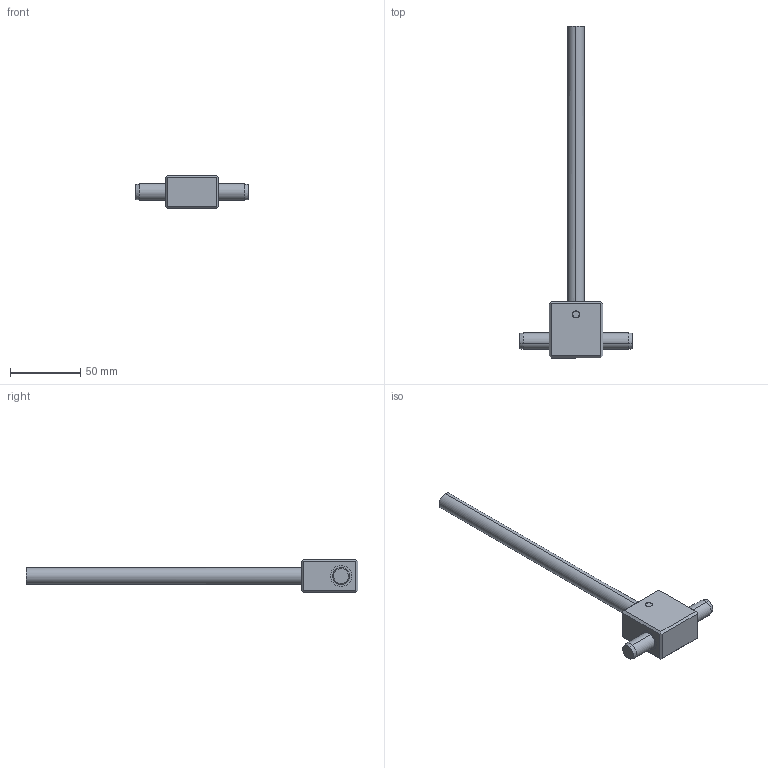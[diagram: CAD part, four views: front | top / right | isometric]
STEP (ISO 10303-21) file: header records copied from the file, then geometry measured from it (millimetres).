
FILE_DESCRIPTION (( 'STEP AP214' ), '1' );
FILE_NAME ('SD3824GR.STEP', '2013-06-18T09:50:07', ( '' ), ( '' ), 'SwSTEP 2.0', 'SolidWorks 2011', '' );
FILE_SCHEMA (( 'AUTOMOTIVE_DESIGN' ));
Length unit declared in the file: millimetre
Products named in the file (7): 8SD3824GR_SD.3824GR; 3casqSD38gr; Parallel Pin Unhardened_DIN_Parallel Pin ISO 2338 - 5 h6 x 24 - St; parallel pin unhardened_din_Parallel Pin ISO 2338 - 12 h6 x 80 - St; SD3824GR; 9SD3824GR_SD.4528GR; Varilla SD38
Assembly tree (6 placements, depth 3):
  SD3824GR
    9SD3824GR_SD.4528GR
      8SD3824GR_SD.3824GR
      3casqSD38gr
    Varilla SD38
    Parallel Pin Unhardened_DIN_Parallel Pin ISO 2338 - 5 h6 x 24 - St
    parallel pin unhardened_din_Parallel Pin ISO 2338 - 12 h6 x 80 - St
Bounding box: 80 x 236 x 24 mm (x, y, z)
Volume: 60105.4 mm3; surface area: 25125.3 mm2
Topology: 17 solids, 17 shells, 158 faces, 345 edges, 222 vertices
Faces by surface type: cylinder 103, plane 39, cone 14, torus 2
Entity records: 8248 total; most frequent: CARTESIAN_POINT 3689, ORIENTED_EDGE 690, DIRECTION 657, EDGE_CURVE 345, AXIS2_PLACEMENT_3D 248, VERTEX_POINT 222, EDGE_LOOP 193, VECTOR 161
